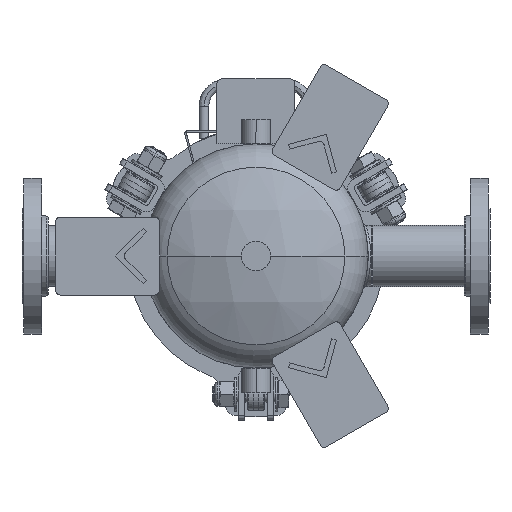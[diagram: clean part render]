
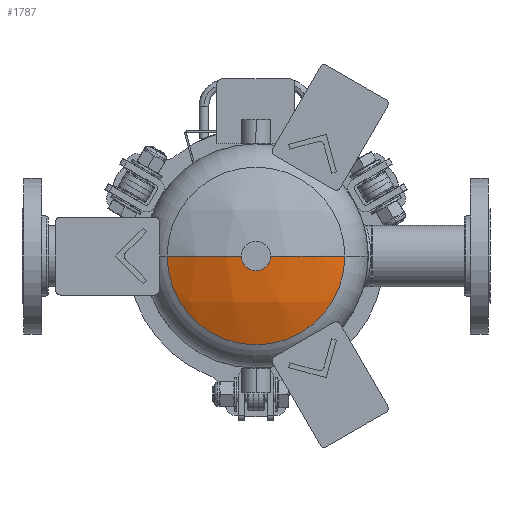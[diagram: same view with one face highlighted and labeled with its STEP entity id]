
A CAD part, front view. The second image highlights one B-rep face of the part: STEP entity #1787.
In plain terms, the highlighted spherical face has radius 196.904 mm.
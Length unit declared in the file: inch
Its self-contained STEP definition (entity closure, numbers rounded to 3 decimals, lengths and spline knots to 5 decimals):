
#376 = CIRCLE ( 'NONE', #15473, 7.75213 ) ;
#1122 = DIRECTION ( 'NONE',  ( 0., -1., 0. ) ) ;
#1217 = DIRECTION ( 'NONE',  ( 0., 0., -1. ) ) ;
#1427 = DIRECTION ( 'NONE',  ( 1., 0., 0. ) ) ;
#1787 = ADVANCED_FACE ( 'NONE', ( #13944 ), #4282, .T. ) ;
#3080 = EDGE_CURVE ( 'NONE', #4448, #8800, #20146, .T. ) ;
#4133 = EDGE_CURVE ( 'NONE', #6354, #8800, #376, .T. ) ;
#4282 = SPHERICAL_SURFACE ( 'NONE', #11480, 7.75213 ) ;
#4448 = VERTEX_POINT ( 'NONE', #9407 ) ;
#5827 = CIRCLE ( 'NONE', #13188, 3.41802 ) ;
#6053 = CARTESIAN_POINT ( 'NONE',  ( 0., -55.33079, 0. ) ) ;
#6354 = VERTEX_POINT ( 'NONE', #21346 ) ;
#7669 = DIRECTION ( 'NONE',  ( 0., 0., -1. ) ) ;
#7689 = DIRECTION ( 'NONE',  ( 1., 0., 0. ) ) ;
#8800 = VERTEX_POINT ( 'NONE', #19559 ) ;
#9407 = CARTESIAN_POINT ( 'NONE',  ( -3.41802, -55.33079, 0. ) ) ;
#10645 = AXIS2_PLACEMENT_3D ( 'NONE', #16704, #21549, #1427 ) ;
#11193 = DIRECTION ( 'NONE',  ( -1., 0., 0. ) ) ;
#11480 = AXIS2_PLACEMENT_3D ( 'NONE', #12298, #7669, #15827 ) ;
#12298 = CARTESIAN_POINT ( 'NONE',  ( 0., -48.37287, 0. ) ) ;
#13188 = AXIS2_PLACEMENT_3D ( 'NONE', #6053, #1122, #7689 ) ;
#13944 = FACE_OUTER_BOUND ( 'NONE', #17601, .T. ) ;
#15473 = AXIS2_PLACEMENT_3D ( 'NONE', #20815, #1217, #11193 ) ;
#15827 = DIRECTION ( 'NONE',  ( -1., 0., 0. ) ) ;
#16323 = EDGE_CURVE ( 'NONE', #4448, #6354, #5827, .T. ) ;
#16704 = CARTESIAN_POINT ( 'NONE',  ( 0., -48.37287, 0. ) ) ;
#16844 = ORIENTED_EDGE ( 'NONE', *, *, #4133, .T. ) ;
#17601 = EDGE_LOOP ( 'NONE', ( #18569, #16844, #20242 ) ) ;
#18569 = ORIENTED_EDGE ( 'NONE', *, *, #16323, .T. ) ;
#19559 = CARTESIAN_POINT ( 'NONE',  ( 0., -56.125, 0. ) ) ;
#20146 = CIRCLE ( 'NONE', #10645, 7.75213 ) ;
#20242 = ORIENTED_EDGE ( 'NONE', *, *, #3080, .F. ) ;
#20815 = CARTESIAN_POINT ( 'NONE',  ( 0., -48.37287, 0. ) ) ;
#21346 = CARTESIAN_POINT ( 'NONE',  ( 3.41802, -55.33079, 0. ) ) ;
#21549 = DIRECTION ( 'NONE',  ( 0., 0., 1. ) ) ;
